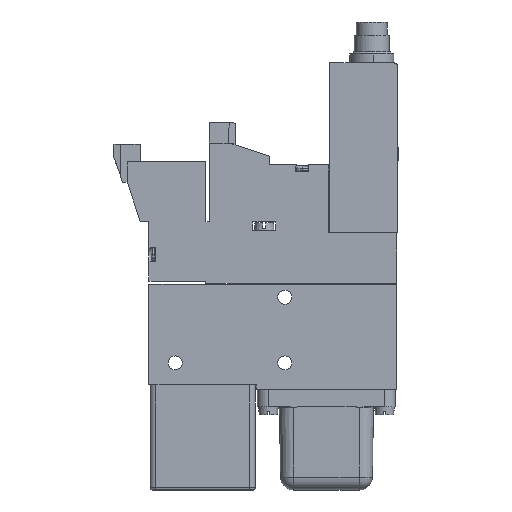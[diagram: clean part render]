
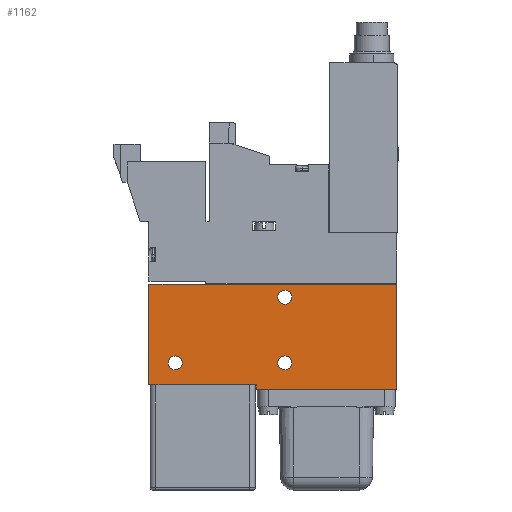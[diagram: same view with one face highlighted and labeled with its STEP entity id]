
A CAD part, front view. The second image highlights one B-rep face of the part: STEP entity #1162.
In plain terms, the highlighted planar face has unit normal (0, -1, 0).
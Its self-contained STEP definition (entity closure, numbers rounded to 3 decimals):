
#1162=ADVANCED_FACE('',(#2476,#2477,#2478,#2479),#2480,.T.);
#2476=FACE_OUTER_BOUND('',#3929,.T.);
#2477=FACE_BOUND('',#3930,.T.);
#2478=FACE_BOUND('',#3931,.T.);
#2479=FACE_BOUND('',#3932,.T.);
#2480=PLANE('',#3933);
#3929=EDGE_LOOP('',(#7366,#7367,#7368,#7369,#7370,#7371));
#3930=EDGE_LOOP('',(#7372,#7373));
#3931=EDGE_LOOP('',(#7374,#7375));
#3932=EDGE_LOOP('',(#7376,#7377));
#3933=AXIS2_PLACEMENT_3D('',#7378,#7379,#7380);
#7366=ORIENTED_EDGE('',*,*,#9764,.T.);
#7367=ORIENTED_EDGE('',*,*,#9708,.T.);
#7368=ORIENTED_EDGE('',*,*,#9713,.T.);
#7369=ORIENTED_EDGE('',*,*,#9717,.T.);
#7370=ORIENTED_EDGE('',*,*,#9762,.T.);
#7371=ORIENTED_EDGE('',*,*,#9765,.T.);
#7372=ORIENTED_EDGE('',*,*,#9726,.F.);
#7373=ORIENTED_EDGE('',*,*,#8583,.F.);
#7374=ORIENTED_EDGE('',*,*,#9723,.F.);
#7375=ORIENTED_EDGE('',*,*,#8588,.F.);
#7376=ORIENTED_EDGE('',*,*,#9720,.F.);
#7377=ORIENTED_EDGE('',*,*,#8593,.F.);
#7378=CARTESIAN_POINT('',(-6.013,0.,-5.001));
#7379=DIRECTION('',(0.0,-1.0,0.));
#7380=DIRECTION('',(-1.0,0.0,0.0));
#8583=EDGE_CURVE('',#10267,#10269,#10270,.T.);
#8588=EDGE_CURVE('',#10276,#10278,#10279,.T.);
#8593=EDGE_CURVE('',#10285,#10287,#10288,.T.);
#9708=EDGE_CURVE('',#11937,#11935,#11938,.T.);
#9713=EDGE_CURVE('',#11935,#11943,#11945,.T.);
#9717=EDGE_CURVE('',#11943,#11949,#11951,.T.);
#9720=EDGE_CURVE('',#10287,#10285,#11954,.T.);
#9723=EDGE_CURVE('',#10278,#10276,#11957,.T.);
#9726=EDGE_CURVE('',#10269,#10267,#11960,.T.);
#9762=EDGE_CURVE('',#11949,#12004,#12006,.T.);
#9764=EDGE_CURVE('',#12008,#11937,#12009,.T.);
#9765=EDGE_CURVE('',#12004,#12008,#12010,.T.);
#10267=VERTEX_POINT('',#12684);
#10269=VERTEX_POINT('',#12687);
#10270=CIRCLE('',#12688,1.6);
#10276=VERTEX_POINT('',#12695);
#10278=VERTEX_POINT('',#12698);
#10279=CIRCLE('',#12699,1.6);
#10285=VERTEX_POINT('',#12706);
#10287=VERTEX_POINT('',#12709);
#10288=CIRCLE('',#12710,1.6);
#11935=VERTEX_POINT('',#15052);
#11937=VERTEX_POINT('',#15055);
#11938=LINE('',#15056,#15057);
#11943=VERTEX_POINT('',#15064);
#11945=LINE('',#15067,#15068);
#11949=VERTEX_POINT('',#15073);
#11951=LINE('',#15076,#15077);
#11954=CIRCLE('',#15080,1.6);
#11957=CIRCLE('',#15083,1.6);
#11960=CIRCLE('',#15086,1.6);
#12004=VERTEX_POINT('',#15148);
#12006=LINE('',#15151,#15152);
#12008=VERTEX_POINT('',#15154);
#12009=LINE('',#15155,#15156);
#12010=LINE('',#15157,#15158);
#12684=CARTESIAN_POINT('',(23.387,0.,14.999));
#12687=CARTESIAN_POINT('',(26.587,0.,14.999));
#12688=AXIS2_PLACEMENT_3D('',#15995,#15996,#15997);
#12695=CARTESIAN_POINT('',(23.387,0.,-0.001));
#12698=CARTESIAN_POINT('',(26.587,0.,-0.001));
#12699=AXIS2_PLACEMENT_3D('',#16003,#16004,#16005);
#12706=CARTESIAN_POINT('',(-1.613,0.,-0.001));
#12709=CARTESIAN_POINT('',(1.587,0.,-0.001));
#12710=AXIS2_PLACEMENT_3D('',#16011,#16012,#16013);
#15052=CARTESIAN_POINT('',(18.487,0.,-5.001));
#15055=CARTESIAN_POINT('',(-6.013,0.,-5.001));
#15056=CARTESIAN_POINT('',(-6.013,0.,-5.001));
#15057=VECTOR('',#17262,1000.0);
#15064=CARTESIAN_POINT('',(18.487,0.,-6.001));
#15067=CARTESIAN_POINT('',(18.487,0.,-5.001));
#15068=VECTOR('',#17266,1000.0);
#15073=CARTESIAN_POINT('',(50.487,0.,-6.001));
#15076=CARTESIAN_POINT('',(18.487,0.,-6.001));
#15077=VECTOR('',#17269,1000.0);
#15080=AXIS2_PLACEMENT_3D('',#17273,#17274,#17275);
#15083=AXIS2_PLACEMENT_3D('',#17279,#17280,#17281);
#15086=AXIS2_PLACEMENT_3D('',#17285,#17286,#17287);
#15148=CARTESIAN_POINT('',(50.487,0.,17.999));
#15151=CARTESIAN_POINT('',(50.487,0.,-6.001));
#15152=VECTOR('',#17316,1000.0);
#15154=CARTESIAN_POINT('',(-6.013,0.,17.999));
#15155=CARTESIAN_POINT('',(-6.013,0.,17.999));
#15156=VECTOR('',#17317,1000.0);
#15157=CARTESIAN_POINT('',(50.487,0.,17.999));
#15158=VECTOR('',#17318,1000.0);
#15995=CARTESIAN_POINT('',(24.987,0.,14.999));
#15996=DIRECTION('',(0.0,-1.0,0.));
#15997=DIRECTION('',(1.0,0.0,0.0));
#16003=CARTESIAN_POINT('',(24.987,0.,-0.001));
#16004=DIRECTION('',(0.0,-1.0,0.));
#16005=DIRECTION('',(1.0,0.0,0.0));
#16011=CARTESIAN_POINT('',(-0.013,0.,-0.001));
#16012=DIRECTION('',(0.0,-1.0,0.));
#16013=DIRECTION('',(1.0,0.0,0.0));
#17262=DIRECTION('',(1.0,0.0,0.0));
#17266=DIRECTION('',(0.0,0.,-1.0));
#17269=DIRECTION('',(1.0,0.0,0.0));
#17273=CARTESIAN_POINT('',(-0.013,0.,-0.001));
#17274=DIRECTION('',(0.0,-1.0,0.));
#17275=DIRECTION('',(1.0,0.0,0.0));
#17279=CARTESIAN_POINT('',(24.987,0.,-0.001));
#17280=DIRECTION('',(0.0,-1.0,0.));
#17281=DIRECTION('',(1.0,0.0,0.0));
#17285=CARTESIAN_POINT('',(24.987,0.,14.999));
#17286=DIRECTION('',(0.0,-1.0,0.));
#17287=DIRECTION('',(1.0,0.0,0.0));
#17316=DIRECTION('',(0.0,0.,1.0));
#17317=DIRECTION('',(0.,0.,-1.0));
#17318=DIRECTION('',(-1.0,0.,0.));
